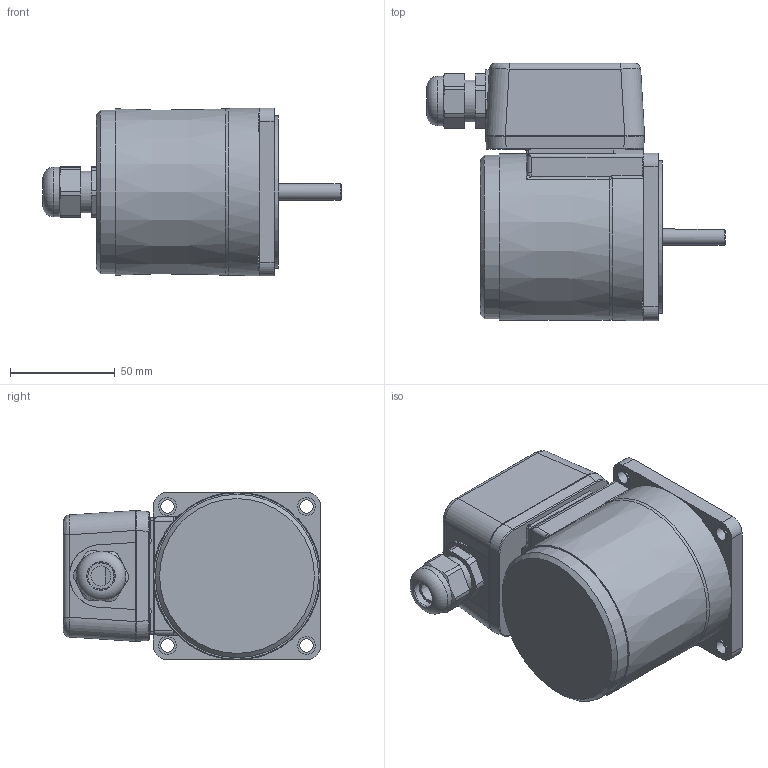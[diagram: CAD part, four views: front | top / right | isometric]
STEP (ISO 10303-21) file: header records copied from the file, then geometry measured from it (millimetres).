
FILE_DESCRIPTION(/* description */ (''),/* implementation_level */ '2;1');
FILE_NAME(/* name */ 'Y:\제품연구개발\3. 도면\3. 고객배포용\3D_홈페이지용\01-1 Standard AC SG Series\04 TERMINAL BOX TYPE MOTORS\INDUCTION TERMINAL BOX\SG8I25_-T_\SG8I25K_-T.stp',/* time_stamp */ '2023-12-06T09:52:05+09:00',/* author */ ('shyi1037'),/* organization */ (''),/* preprocessor_version */ 'ST-DEVELOPER v18.1',/* originating_system */ 'Autodesk Inventor 2022',/* authorisation */ '');
FILE_SCHEMA (('AUTOMOTIVE_DESIGN { 1 0 10303 214 3 1 1 }'));
Length unit declared in the file: millimetre
Products named in the file (1): SG8I25K_-T
Bounding box: 142.5 x 123 x 80 mm (x, y, z)
Volume: 630985.9 mm3; surface area: 59284.2 mm2
Topology: 1 solids, 9 shells, 370 faces, 921 edges, 588 vertices
Faces by surface type: plane 191, cylinder 109, bspline 47, torus 18, cone 5
Full cylindrical faces by diameter (mm): 2.55 x2, 5.6 x4, 6.3 x4, 6.5 x4, 8 x1, 8.5 x4, 12.5 x1, 15 x1, 20 x2, 21 x1, 23.6 x1, 34 x1, 73 x1, 78 x1
Entity records: 13549 total; most frequent: CARTESIAN_POINT 4576, ORIENTED_EDGE 1832, DIRECTION 1741, EDGE_CURVE 916, AXIS2_PLACEMENT_3D 621, VERTEX_POINT 589, LINE 499, VECTOR 499
